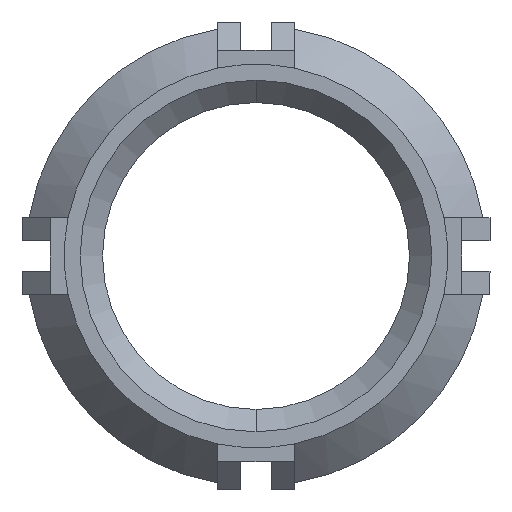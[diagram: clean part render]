
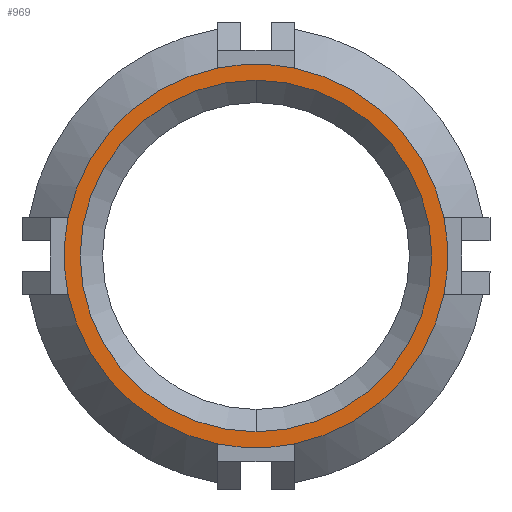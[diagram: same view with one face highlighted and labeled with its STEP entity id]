
A CAD part, front view. The second image highlights one B-rep face of the part: STEP entity #969.
In plain terms, the highlighted planar face has unit normal (0, -1, 0).
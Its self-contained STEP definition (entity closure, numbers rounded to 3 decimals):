
#80 = AXIS2_PLACEMENT_3D ( 'NONE', #4288, #1893, #5176 ) ;
#282 = CARTESIAN_POINT ( 'NONE',  ( 7.348, -18., 1.5 ) ) ;
#299 = DIRECTION ( 'NONE',  ( 0., 1., 0. ) ) ;
#332 = VERTEX_POINT ( 'NONE', #3267 ) ;
#347 = CARTESIAN_POINT ( 'NONE',  ( 0., -18., 0. ) ) ;
#374 = DIRECTION ( 'NONE',  ( 0., -1., 0. ) ) ;
#519 = VERTEX_POINT ( 'NONE', #3917 ) ;
#603 = AXIS2_PLACEMENT_3D ( 'NONE', #5590, #4730, #2347 ) ;
#624 = VERTEX_POINT ( 'NONE', #3193 ) ;
#673 = EDGE_CURVE ( 'NONE', #519, #2304, #2573, .T. ) ;
#760 = DIRECTION ( 'NONE',  ( 0., 0., 1. ) ) ;
#824 = FACE_BOUND ( 'NONE', #5104, .T. ) ;
#969 = ADVANCED_FACE ( 'NONE', ( #824, #1258 ), #3553, .F. ) ;
#978 = CIRCLE ( 'NONE', #4028, 6.875 ) ;
#1072 = ORIENTED_EDGE ( 'NONE', *, *, #5554, .T. ) ;
#1251 = CARTESIAN_POINT ( 'NONE',  ( 0., -18., 0. ) ) ;
#1258 = FACE_OUTER_BOUND ( 'NONE', #2946, .T. ) ;
#1333 = EDGE_CURVE ( 'NONE', #3100, #5095, #2865, .T. ) ;
#1344 = CARTESIAN_POINT ( 'NONE',  ( -7.348, -18., -1.5 ) ) ;
#1893 = DIRECTION ( 'NONE',  ( 0., -1., 0. ) ) ;
#1986 = CARTESIAN_POINT ( 'NONE',  ( 0., -18., 0. ) ) ;
#2159 = DIRECTION ( 'NONE',  ( 0., 1., 0. ) ) ;
#2211 = CARTESIAN_POINT ( 'NONE',  ( 0., -18., 0. ) ) ;
#2221 = AXIS2_PLACEMENT_3D ( 'NONE', #347, #5946, #4584 ) ;
#2304 = VERTEX_POINT ( 'NONE', #282 ) ;
#2347 = DIRECTION ( 'NONE',  ( 1., 0., 0. ) ) ;
#2469 = EDGE_CURVE ( 'NONE', #624, #4755, #978, .T. ) ;
#2519 = CIRCLE ( 'NONE', #3810, 7.5 ) ;
#2528 = CIRCLE ( 'NONE', #80, 7.5 ) ;
#2573 = CIRCLE ( 'NONE', #4580, 7.5 ) ;
#2671 = EDGE_CURVE ( 'NONE', #5639, #332, #5923, .T. ) ;
#2672 = DIRECTION ( 'NONE',  ( 0., 0., 1. ) ) ;
#2692 = DIRECTION ( 'NONE',  ( 0., -1., 0. ) ) ;
#2699 = AXIS2_PLACEMENT_3D ( 'NONE', #3060, #299, #5428 ) ;
#2773 = DIRECTION ( 'NONE',  ( 0., -1., 0. ) ) ;
#2865 = CIRCLE ( 'NONE', #4038, 7.5 ) ;
#2946 = EDGE_LOOP ( 'NONE', ( #1072, #5063, #5473, #5326, #5029, #3347, #2952, #5005 ) ) ;
#2952 = ORIENTED_EDGE ( 'NONE', *, *, #5206, .T. ) ;
#3060 = CARTESIAN_POINT ( 'NONE',  ( 0., -18., 0. ) ) ;
#3100 = VERTEX_POINT ( 'NONE', #4639 ) ;
#3119 = DIRECTION ( 'NONE',  ( 0., 0., 1. ) ) ;
#3193 = CARTESIAN_POINT ( 'NONE',  ( 0., -18., 6.875 ) ) ;
#3267 = CARTESIAN_POINT ( 'NONE',  ( 1.5, -18., -7.348 ) ) ;
#3280 = AXIS2_PLACEMENT_3D ( 'NONE', #1986, #4803, #5714 ) ;
#3327 = EDGE_CURVE ( 'NONE', #332, #519, #3365, .T. ) ;
#3344 = ORIENTED_EDGE ( 'NONE', *, *, #4637, .T. ) ;
#3347 = ORIENTED_EDGE ( 'NONE', *, *, #5317, .T. ) ;
#3365 = CIRCLE ( 'NONE', #3280, 7.5 ) ;
#3528 = CARTESIAN_POINT ( 'NONE',  ( 0., -18., 0. ) ) ;
#3531 = DIRECTION ( 'NONE',  ( 0., 0., -1. ) ) ;
#3553 = PLANE ( 'NONE',  #2221 ) ;
#3595 = CARTESIAN_POINT ( 'NONE',  ( 0., -18., 0. ) ) ;
#3660 = DIRECTION ( 'NONE',  ( -1., 0., 0. ) ) ;
#3785 = VERTEX_POINT ( 'NONE', #1344 ) ;
#3810 = AXIS2_PLACEMENT_3D ( 'NONE', #3528, #5878, #760 ) ;
#3917 = CARTESIAN_POINT ( 'NONE',  ( 7.348, -18., -1.5 ) ) ;
#4028 = AXIS2_PLACEMENT_3D ( 'NONE', #1251, #2159, #3119 ) ;
#4038 = AXIS2_PLACEMENT_3D ( 'NONE', #5044, #2773, #5546 ) ;
#4120 = CARTESIAN_POINT ( 'NONE',  ( 0., -18., -6.875 ) ) ;
#4288 = CARTESIAN_POINT ( 'NONE',  ( 0., -18., 0. ) ) ;
#4301 = CIRCLE ( 'NONE', #2699, 6.875 ) ;
#4317 = ORIENTED_EDGE ( 'NONE', *, *, #2469, .T. ) ;
#4580 = AXIS2_PLACEMENT_3D ( 'NONE', #3595, #374, #3531 ) ;
#4584 = DIRECTION ( 'NONE',  ( 0., 0., 1. ) ) ;
#4637 = EDGE_CURVE ( 'NONE', #4755, #624, #4301, .T. ) ;
#4639 = CARTESIAN_POINT ( 'NONE',  ( -1.5, -18., 7.348 ) ) ;
#4712 = CARTESIAN_POINT ( 'NONE',  ( 1.5, -18., 7.348 ) ) ;
#4730 = DIRECTION ( 'NONE',  ( 0., -1., 0. ) ) ;
#4755 = VERTEX_POINT ( 'NONE', #4120 ) ;
#4803 = DIRECTION ( 'NONE',  ( 0., -1., 0. ) ) ;
#4814 = VERTEX_POINT ( 'NONE', #4712 ) ;
#4970 = AXIS2_PLACEMENT_3D ( 'NONE', #2211, #2692, #2672 ) ;
#5005 = ORIENTED_EDGE ( 'NONE', *, *, #1333, .T. ) ;
#5028 = CARTESIAN_POINT ( 'NONE',  ( 0., -18., 0. ) ) ;
#5029 = ORIENTED_EDGE ( 'NONE', *, *, #673, .T. ) ;
#5044 = CARTESIAN_POINT ( 'NONE',  ( 0., -18., 0. ) ) ;
#5063 = ORIENTED_EDGE ( 'NONE', *, *, #5601, .T. ) ;
#5095 = VERTEX_POINT ( 'NONE', #5643 ) ;
#5104 = EDGE_LOOP ( 'NONE', ( #3344, #4317 ) ) ;
#5114 = DIRECTION ( 'NONE',  ( 0., -1., 0. ) ) ;
#5176 = DIRECTION ( 'NONE',  ( 0., 0., 1. ) ) ;
#5206 = EDGE_CURVE ( 'NONE', #4814, #3100, #5225, .T. ) ;
#5221 = CIRCLE ( 'NONE', #4970, 7.5 ) ;
#5225 = CIRCLE ( 'NONE', #603, 7.5 ) ;
#5317 = EDGE_CURVE ( 'NONE', #2304, #4814, #2528, .T. ) ;
#5326 = ORIENTED_EDGE ( 'NONE', *, *, #3327, .T. ) ;
#5428 = DIRECTION ( 'NONE',  ( 0., 0., 1. ) ) ;
#5439 = CARTESIAN_POINT ( 'NONE',  ( -1.5, -18., -7.348 ) ) ;
#5473 = ORIENTED_EDGE ( 'NONE', *, *, #2671, .T. ) ;
#5546 = DIRECTION ( 'NONE',  ( 0., 0., 1. ) ) ;
#5554 = EDGE_CURVE ( 'NONE', #5095, #3785, #2519, .T. ) ;
#5577 = AXIS2_PLACEMENT_3D ( 'NONE', #5028, #5114, #3660 ) ;
#5590 = CARTESIAN_POINT ( 'NONE',  ( 0., -18., 0. ) ) ;
#5601 = EDGE_CURVE ( 'NONE', #3785, #5639, #5221, .T. ) ;
#5639 = VERTEX_POINT ( 'NONE', #5439 ) ;
#5643 = CARTESIAN_POINT ( 'NONE',  ( -7.348, -18., 1.5 ) ) ;
#5714 = DIRECTION ( 'NONE',  ( 0., 0., 1. ) ) ;
#5878 = DIRECTION ( 'NONE',  ( 0., -1., 0. ) ) ;
#5923 = CIRCLE ( 'NONE', #5577, 7.5 ) ;
#5946 = DIRECTION ( 'NONE',  ( 0., 1., 0. ) ) ;
